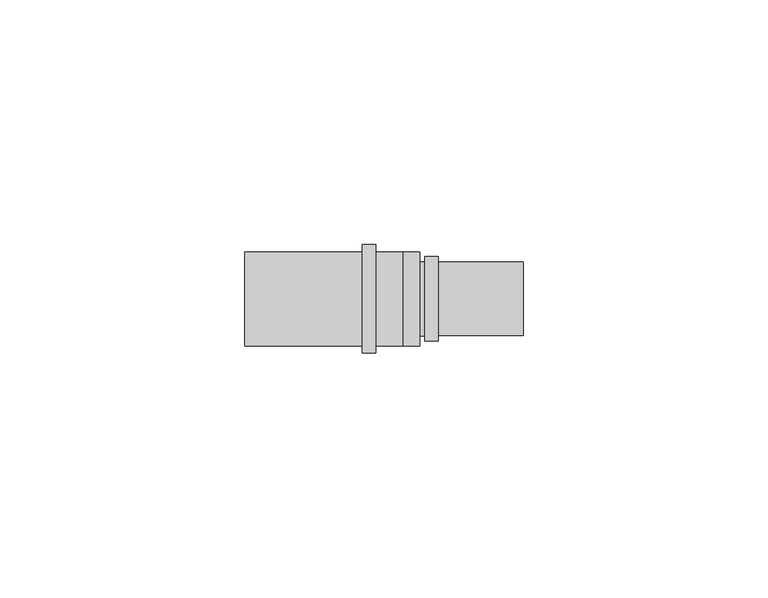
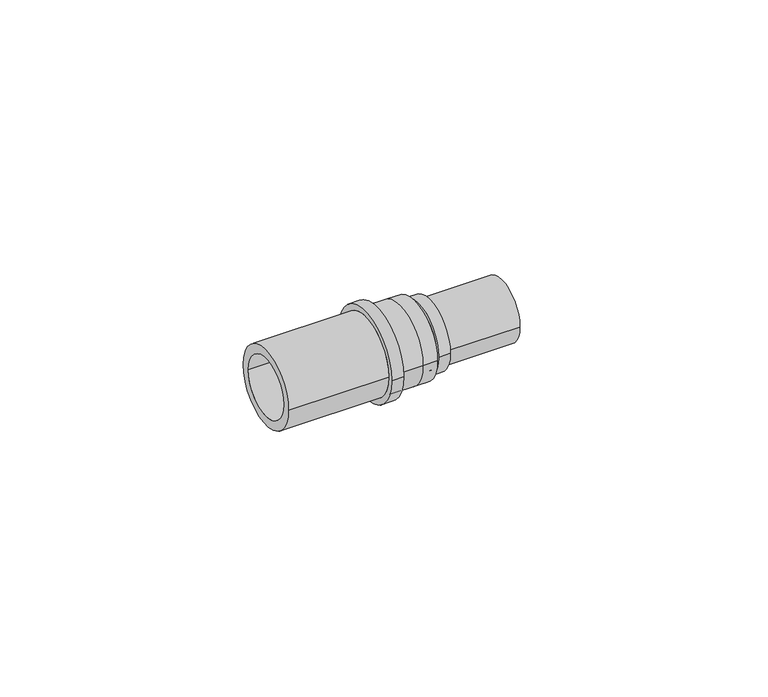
"""IFC4 building model written with IfcOpenShell, lengths in millimetres: pipe fitting geometry, FASTLOC_Coupling reduced LX : FSL C LX PL."""

from ifc_helpers import new_model, si_unit, frame, origin, place, context, project, spatial, polyline, circle_curve, source, transform, mapped, element, save
from ifc_brep_helpers import plane_surface, cylinder_surface, revolved_surface, advanced_brep


def pipe_fitting_ba498e85(model_context):
    return source(origin(), model_context, "Body", "AdvancedBrep", [
        advanced_brep(
        [(-1.5, 9.6, 0.0), (-1.5, -9.6, 0.0), (-7.0, -9.6, 0.0), (-7.0, 9.6, 0.0), (-7.0, 11.1, 0.0), (-7.0, -11.1, 0.0), (-9.8, -11.1, 0.0), (-9.8, 11.1, 0.0), (-9.8, 9.6, 0.0), (-9.8, -9.6, 0.0), (-33.8, -9.6, 0.0), (-33.8, 9.6, 0.0), (-33.8, 7.35, 0.0), (-33.8, -7.35, 0.0), (-1.5, -7.35, 0.0), (-1.5, 7.35, 0.0), (-1.5, 5.55, 0.0), (-1.5, -5.55, 0.0), (23.1, -5.55, 0.0), (23.1, 5.55, 0.0), (23.1, 7.5229189, 0.0), (23.1, -7.5229189, 0.0), (5.7, -7.5229189, 0.0), (5.7, 7.5229189, 0.0), (5.7, 8.6, 0.0), (5.7, -8.6, 0.0), (3.0, -8.6, 0.0), (3.0, 8.6, 0.0), (3.0, 7.55, 0.0), (3.0, -7.55, 0.0), (2.0, -7.55, 0.0), (2.0, 7.55, 0.0), (2.0, 9.6, 0.0), (2.0, -9.6, 0.0)],
        [
            (0, 1, circle_curve(frame((-1.5, 0.0, 0.0), z_axis=(-1.0, 0.0, 0.0), x_axis=(0.0, -1.0, 0.0)), 9.6)),
            (1, 2),
            (2, 3, circle_curve(frame((-7.0, 0.0, 0.0), z_axis=(1.0, 0.0, 0.0), x_axis=(0.0, -1.0, 0.0)), 9.6)),
            (3, 0),
            (4, 5, circle_curve(frame((-7.0, 0.0, 0.0), z_axis=(-1.0, 0.0, 0.0), x_axis=(0.0, -1.0, 0.0)), 11.1)),
            (5, 6),
            (6, 7, circle_curve(frame((-9.8, 0.0, 0.0), z_axis=(1.0, 0.0, 0.0), x_axis=(0.0, -1.0, 0.0)), 11.1)),
            (7, 4),
            (8, 9, circle_curve(frame((-9.8, 0.0, 0.0), z_axis=(-1.0, 0.0, 0.0), x_axis=(0.0, -1.0, 0.0)), 9.6)),
            (9, 10),
            (10, 11, circle_curve(frame((-33.8, 0.0, 0.0), z_axis=(1.0, 0.0, 0.0), x_axis=(0.0, -1.0, 0.0)), 9.6)),
            (11, 8),
            (12, 13, circle_curve(frame((-33.8, 0.0, 0.0), z_axis=(-1.0, 0.0, 0.0), x_axis=(0.0, -1.0, 0.0)), 7.35)),
            (13, 14),
            (14, 15, circle_curve(frame((-1.5, 0.0, 0.0), z_axis=(1.0, 0.0, 0.0), x_axis=(0.0, -1.0, 0.0)), 7.35)),
            (15, 12),
            (1, 0, circle_curve(frame((-1.5, 0.0, 0.0), z_axis=(-1.0, 0.0, 0.0), x_axis=(0.0, 1.0, 0.0)), 9.6)),
            (3, 2, circle_curve(frame((-7.0, 0.0, 0.0), z_axis=(1.0, 0.0, 0.0), x_axis=(0.0, 1.0, 0.0)), 9.6)),
            (4, 5, circle_curve(frame((-7.0, 0.0, 0.0), z_axis=(1.0, 0.0, 0.0), x_axis=(0.0, 1.0, 0.0)), 11.1)),
            (7, 6, circle_curve(frame((-9.8, 0.0, 0.0), z_axis=(1.0, 0.0, 0.0), x_axis=(0.0, 1.0, 0.0)), 11.1)),
            (8, 9, circle_curve(frame((-9.8, 0.0, 0.0), z_axis=(1.0, 0.0, 0.0), x_axis=(0.0, 1.0, 0.0)), 9.6)),
            (11, 10, circle_curve(frame((-33.8, 0.0, 0.0), z_axis=(1.0, 0.0, 0.0), x_axis=(0.0, 1.0, 0.0)), 9.6)),
            (12, 13, circle_curve(frame((-33.8, 0.0, 0.0), z_axis=(1.0, 0.0, 0.0), x_axis=(0.0, 1.0, 0.0)), 7.35)),
            (15, 14, circle_curve(frame((-1.5, 0.0, 0.0), z_axis=(1.0, 0.0, 0.0), x_axis=(0.0, 1.0, 0.0)), 7.35)),
            (16, 17, circle_curve(frame((-1.5, 0.0, 0.0), z_axis=(-1.0, 0.0, 0.0), x_axis=(0.0, -1.0, 0.0)), 5.55)),
            (17, 18),
            (18, 19, circle_curve(frame((23.1, 0.0, 0.0), z_axis=(1.0, 0.0, 0.0), x_axis=(0.0, -1.0, 0.0)), 5.55)),
            (19, 16),
            (20, 21, circle_curve(frame((23.1, 0.0, 0.0), z_axis=(-1.0, 0.0, 0.0), x_axis=(0.0, -1.0, 0.0)), 7.5229189)),
            (21, 22),
            (22, 23, circle_curve(frame((5.7, 0.0, 0.0), z_axis=(1.0, 0.0, 0.0), x_axis=(0.0, -1.0, 0.0)), 7.5229189)),
            (23, 20),
            (24, 25, circle_curve(frame((5.7, 0.0, 0.0), z_axis=(-1.0, 0.0, 0.0), x_axis=(0.0, -1.0, 0.0)), 8.6)),
            (25, 26),
            (26, 27, circle_curve(frame((3.0, 0.0, 0.0), z_axis=(1.0, 0.0, 0.0), x_axis=(0.0, -1.0, 0.0)), 8.6)),
            (27, 24),
            (28, 29, circle_curve(frame((3.0, 0.0, 0.0), z_axis=(-1.0, 0.0, 0.0), x_axis=(0.0, -1.0, 0.0)), 7.55)),
            (29, 30),
            (30, 31, circle_curve(frame((2.0, 0.0, 0.0), z_axis=(1.0, 0.0, 0.0), x_axis=(0.0, -1.0, 0.0)), 7.55)),
            (31, 28),
            (32, 33, circle_curve(frame((2.0, 0.0, 0.0), z_axis=(-1.0, 0.0, 0.0), x_axis=(0.0, -1.0, 0.0)), 9.6)),
            (33, 1),
            (0, 32),
            (16, 17, circle_curve(frame((-1.5, 0.0, 0.0), z_axis=(1.0, 0.0, 0.0), x_axis=(0.0, 1.0, 0.0)), 5.55)),
            (19, 18, circle_curve(frame((23.1, 0.0, 0.0), z_axis=(1.0, 0.0, 0.0), x_axis=(0.0, 1.0, 0.0)), 5.55)),
            (20, 21, circle_curve(frame((23.1, 0.0, 0.0), z_axis=(1.0, 0.0, 0.0), x_axis=(0.0, 1.0, 0.0)), 7.5229189)),
            (23, 22, circle_curve(frame((5.7, 0.0, 0.0), z_axis=(1.0, 0.0, 0.0), x_axis=(0.0, 1.0, 0.0)), 7.5229189)),
            (24, 25, circle_curve(frame((5.7, 0.0, 0.0), z_axis=(1.0, 0.0, 0.0), x_axis=(0.0, 1.0, 0.0)), 8.6)),
            (27, 26, circle_curve(frame((3.0, 0.0, 0.0), z_axis=(1.0, 0.0, 0.0), x_axis=(0.0, 1.0, 0.0)), 8.6)),
            (28, 29, circle_curve(frame((3.0, 0.0, 0.0), z_axis=(1.0, 0.0, 0.0), x_axis=(0.0, 1.0, 0.0)), 7.55)),
            (31, 30, circle_curve(frame((2.0, 0.0, 0.0), z_axis=(1.0, 0.0, 0.0), x_axis=(0.0, 1.0, 0.0)), 7.55)),
            (32, 33, circle_curve(frame((2.0, 0.0, 0.0), z_axis=(1.0, 0.0, 0.0), x_axis=(0.0, 1.0, 0.0)), 9.6)),
        ],
        [
            cylinder_surface(frame((0.0, 0.0, 0.0), z_axis=(1.0, 0.0, 0.0), x_axis=(0.0, -1.0, 0.0)), 9.6),
            cylinder_surface(frame((0.0, 0.0, 0.0), z_axis=(1.0, 0.0, 0.0), x_axis=(0.0, -1.0, 0.0)), 11.1),
            revolved_surface(polyline([(-1.5, -7.35, 0.0), (-33.8, -7.35, 0.0)]), (0.0, 0.0, 0.0), (1.0, 0.0, 0.0)),
            cylinder_surface(frame((0.0, 0.0, 0.0), z_axis=(1.0, 0.0, 0.0), x_axis=(0.0, 1.0, 0.0)), 9.6),
            plane_surface(frame((-7.0, 0.0, 0.0), z_axis=(1.0, 0.0, 0.0), x_axis=(0.0, 1.0, 0.0))),
            cylinder_surface(frame((0.0, 0.0, 0.0), z_axis=(1.0, 0.0, 0.0), x_axis=(0.0, 1.0, 0.0)), 11.1),
            plane_surface(frame((-9.8, 0.0, 0.0), z_axis=(-1.0, 0.0, 0.0), x_axis=(0.0, 1.0, 0.0))),
            plane_surface(frame((-33.8, 0.0, 0.0), z_axis=(-1.0, 0.0, 0.0), x_axis=(0.0, 1.0, 0.0))),
            revolved_surface(polyline([(-1.5, 7.35, 0.0), (-33.8, 7.35, 0.0)]), (0.0, 0.0, 0.0), (1.0, 0.0, 0.0)),
            revolved_surface(polyline([(23.1, -5.55, 0.0), (-1.5, -5.55, 0.0)]), (0.0, 0.0, 0.0), (1.0, 0.0, 0.0)),
            cylinder_surface(frame((0.0, 0.0, 0.0), z_axis=(1.0, 0.0, 0.0), x_axis=(0.0, -1.0, 0.0)), 7.5229189),
            cylinder_surface(frame((0.0, 0.0, 0.0), z_axis=(1.0, 0.0, 0.0), x_axis=(0.0, -1.0, 0.0)), 8.6),
            cylinder_surface(frame((0.0, 0.0, 0.0), z_axis=(1.0, 0.0, 0.0), x_axis=(0.0, -1.0, 0.0)), 7.55),
            plane_surface(frame((-1.5, 0.0, 0.0), z_axis=(-1.0, 0.0, 0.0), x_axis=(0.0, 1.0, 0.0))),
            revolved_surface(polyline([(23.1, 5.55, 0.0), (-1.5, 5.55, 0.0)]), (0.0, 0.0, 0.0), (1.0, 0.0, 0.0)),
            plane_surface(frame((23.1, 0.0, 0.0), z_axis=(1.0, 0.0, 0.0), x_axis=(0.0, 1.0, 0.0))),
            cylinder_surface(frame((0.0, 0.0, 0.0), z_axis=(1.0, 0.0, 0.0), x_axis=(0.0, 1.0, 0.0)), 7.5229189),
            plane_surface(frame((5.7, 0.0, 0.0), z_axis=(1.0, 0.0, 0.0), x_axis=(0.0, 1.0, 0.0))),
            cylinder_surface(frame((0.0, 0.0, 0.0), z_axis=(1.0, 0.0, 0.0), x_axis=(0.0, 1.0, 0.0)), 8.6),
            plane_surface(frame((3.0, 0.0, 0.0), z_axis=(-1.0, 0.0, 0.0), x_axis=(0.0, 1.0, 0.0))),
            cylinder_surface(frame((0.0, 0.0, 0.0), z_axis=(1.0, 0.0, 0.0), x_axis=(0.0, 1.0, 0.0)), 7.55),
            plane_surface(frame((2.0, 0.0, 0.0), z_axis=(1.0, 0.0, 0.0), x_axis=(0.0, 1.0, 0.0))),
        ],
        [
            (0, [[1, 2, 3, 4]]),
            (1, [[5, 6, 7, 8]]),
            (0, [[9, 10, 11, 12]]),
            (2, [[13, 14, 15, 16]]),
            (3, [[17, -4, 18, -2]]),
            (4, [[19, -5], [-18, -3]]),
            (5, [[-19, -8, 20, -6]]),
            (6, [[-20, -7], [21, -9]]),
            (3, [[-21, -12, 22, -10]]),
            (7, [[-22, -11], [23, -13]]),
            (8, [[-23, -16, 24, -14]]),
            (9, [[25, 26, 27, 28]]),
            (10, [[29, 30, 31, 32]]),
            (11, [[33, 34, 35, 36]]),
            (12, [[37, 38, 39, 40]]),
            (0, [[41, 42, -1, 43]]),
            (13, [[-24, -15], [44, -25]]),
            (14, [[-44, -28, 45, -26]]),
            (15, [[46, -29], [-45, -27]]),
            (16, [[-46, -32, 47, -30]]),
            (17, [[48, -33], [-47, -31]]),
            (18, [[-48, -36, 49, -34]]),
            (19, [[-49, -35], [50, -37]]),
            (20, [[-50, -40, 51, -38]]),
            (21, [[52, -41], [-51, -39]]),
            (3, [[-52, -43, -17, -42]]),
        ],
    ),
    ])


if __name__ == "__main__":
    model = new_model("IFC4")
    model_context = context("Model", 3, world=origin())
    ifc_project = project(units=[si_unit("LENGTHUNIT", "METRE", prefix="MILLI")], contexts=[model_context])
    site = spatial("IfcSite", under=ifc_project)
    building = spatial("IfcBuilding", under=site)
    placement = place(None, origin())
    pipe_fitting_shape = pipe_fitting_ba498e85(model_context)
    element("IfcPipeFitting", 1, ObjectType="FASTLOC_Coupling reduced LX : FSL C LX PL", at=placement, inside=building, context=model_context, shape_type="MappedRepresentation", body=[
        mapped(pipe_fitting_shape, transform((0.0, 0.0, 0.0), x_axis=(1.0, 0.0, 0.0), y_axis=(0.0, 1.0, 0.0), z_axis=(0.0, 0.0, 1.0))),
    ])
    save(model, "model.ifc")
